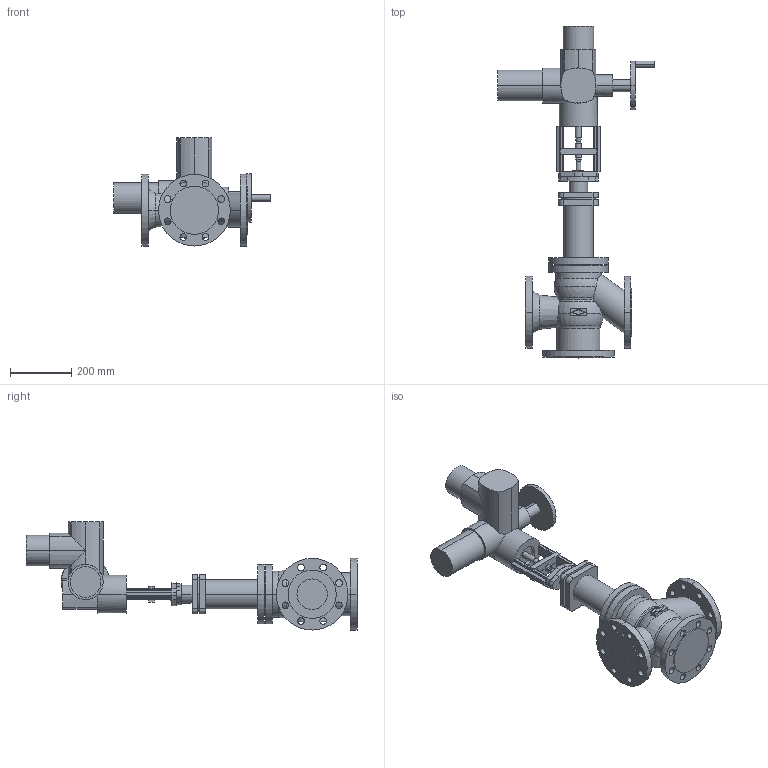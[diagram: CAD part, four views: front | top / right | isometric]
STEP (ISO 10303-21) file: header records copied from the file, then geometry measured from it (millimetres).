
FILE_DESCRIPTION(('OneSpaceDesigner STEP Export'),'2;1');
FILE_NAME('c000003219.stp','2007-01-25T12:03:31',(''),(''),'OneSpace Designer STEP processor for AP214 (Solid Model)','OneSpace Designer 14.00B 27-May-2006 (C) CoCreate Software GmbH','');
FILE_SCHEMA(('AUTOMOTIVE_DESIGN { 1 0 10303 214 1 1 1 1 }'));
Length unit declared in the file: millimetre
Products named in the file (2): 1; 2
Bounding box: 514 x 1087.7 x 354.5 mm (x, y, z)
Volume: 21527170.1 mm3; surface area: 1144934.8 mm2
Topology: 2 solids, 2 shells, 356 faces, 922 edges, 588 vertices
Faces by surface type: cylinder 182, plane 150, torus 12, cone 8, sphere 4
Entity records: 10440 total; most frequent: CARTESIAN_POINT 2337, ORIENTED_EDGE 1836, DIRECTION 1494, EDGE_CURVE 918, VERTEX_POINT 588, AXIS2_PLACEMENT_3D 519, VECTOR 456, LINE 456
